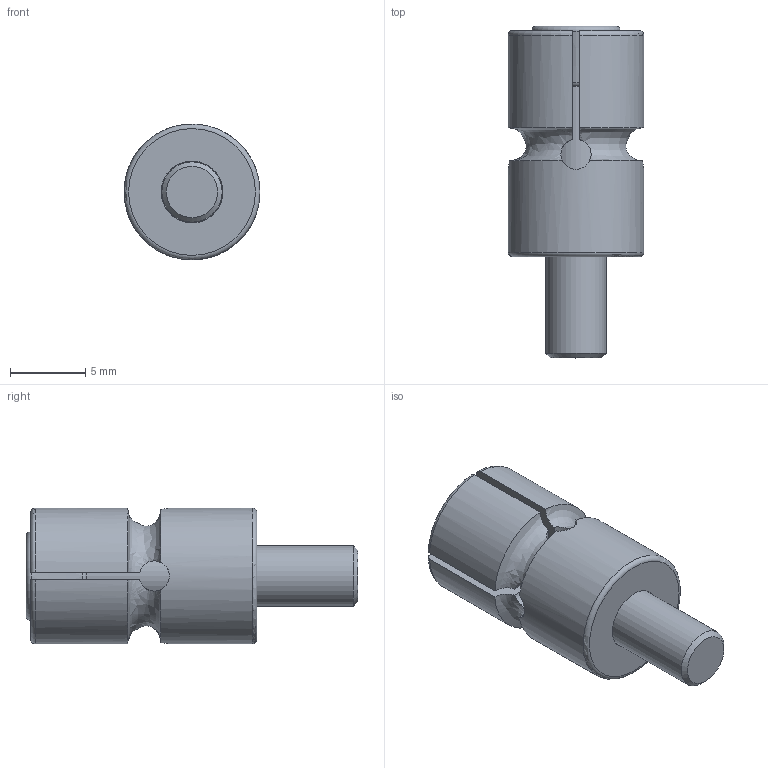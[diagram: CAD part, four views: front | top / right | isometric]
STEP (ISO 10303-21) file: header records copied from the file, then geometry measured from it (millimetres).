
FILE_DESCRIPTION(/* description */ (''),/* implementation_level */ '2;1');
FILE_NAME(/* name */ '9MM扩张销_stp.stp',/* time_stamp */ '2023-11-23T21:42:48+08:00',/* author */ (''),/* organization */ (''),/* preprocessor_version */ 'ST-DEVELOPER v16',/* originating_system */ 'SIEMENS PLM Software NX 10.0',/* authorisation */ '');
FILE_SCHEMA (('CONFIG_CONTROL_DESIGN'));
Length unit declared in the file: millimetre
Products named in the file (1): 8MM扩张销_stp
Bounding box: 9 x 22 x 9 mm (x, y, z)
Volume: 912.5 mm3; surface area: 1201.9 mm2
Topology: 2 solids, 3 shells, 63 faces, 163 edges, 107 vertices
Faces by surface type: plane 25, cylinder 18, torus 7, bspline 7, cone 6
Full cylindrical faces by diameter (mm): 4 x1, 4.1 x1, 9 x1
Entity records: 7481 total; most frequent: CARTESIAN_POINT 6031, ORIENTED_EDGE 300, DIRECTION 238, EDGE_CURVE 150, VERTEX_POINT 102, AXIS2_PLACEMENT_3D 90, EDGE_LOOP 74, ADVANCED_FACE 63
